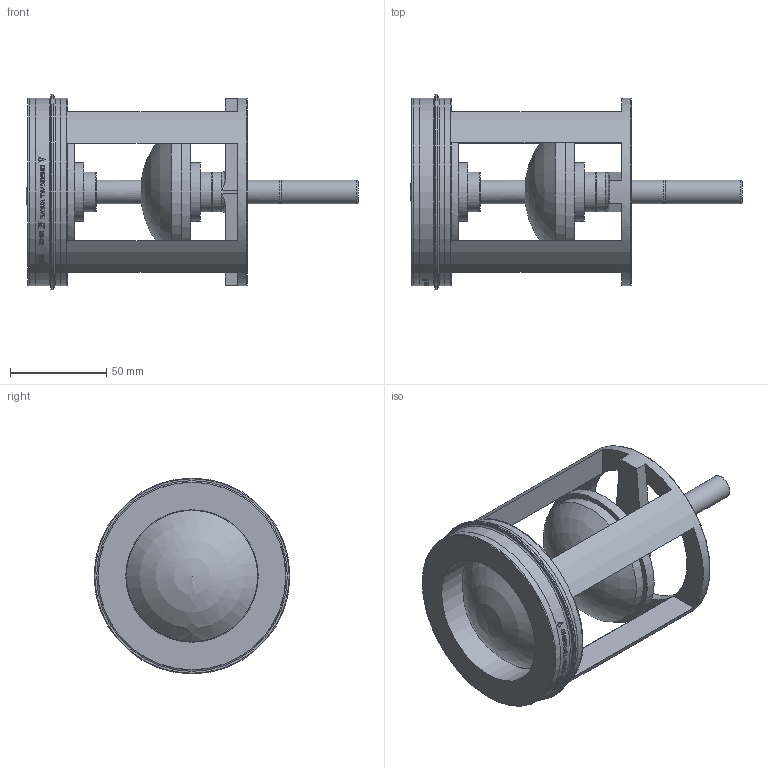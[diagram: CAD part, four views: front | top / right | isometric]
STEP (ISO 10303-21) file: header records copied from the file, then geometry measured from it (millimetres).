
FILE_DESCRIPTION(/* description */ ('Unknown'),/* implementation_level */ '2;1');
FILE_NAME(/* name */ '3SN',/* time_stamp */ '2024-08-01T09:20:18-05:00',/* author */ ('Unknown'),/* organization */ ('Unknown'),/* preprocessor_version */ 'ST-DEVELOPER v19.4',/* originating_system */ 'Solid Edge',/* authorisation */ 'Unknown');
FILE_SCHEMA (('AUTOMOTIVE_DESIGN {1 0 10303 214 3 1 1}'));
Length unit declared in the file: millimetre
Products named in the file (1): 3SN
Bounding box: 172.3 x 101.6 x 101.6 mm (x, y, z)
Volume: 321167.6 mm3; surface area: 75485.2 mm2
Topology: 1 solids, 1 shells, 330 faces, 836 edges, 553 vertices
Faces by surface type: plane 166, bspline 93, cylinder 58, torus 11, sphere 2
Full cylindrical faces by diameter (mm): 12.243 x1, 12.246 x2, 12.268 x1, 20.65 x3, 30.651 x1, 30.654 x1, 68.148 x2, 68.707 x1, 73.66 x2, 73.685 x1, 97.358 x4, 97.384 x2, 101.6 x1
Entity records: 15717 total; most frequent: CARTESIAN_POINT 7093, ORIENTED_EDGE 1572, EDGE_CURVE 786, DIRECTION 702, B_SPLINE_CURVE_WITH_KNOTS 643, VERTEX_POINT 543, EDGE_LOOP 427, FACE_BOUND 427
